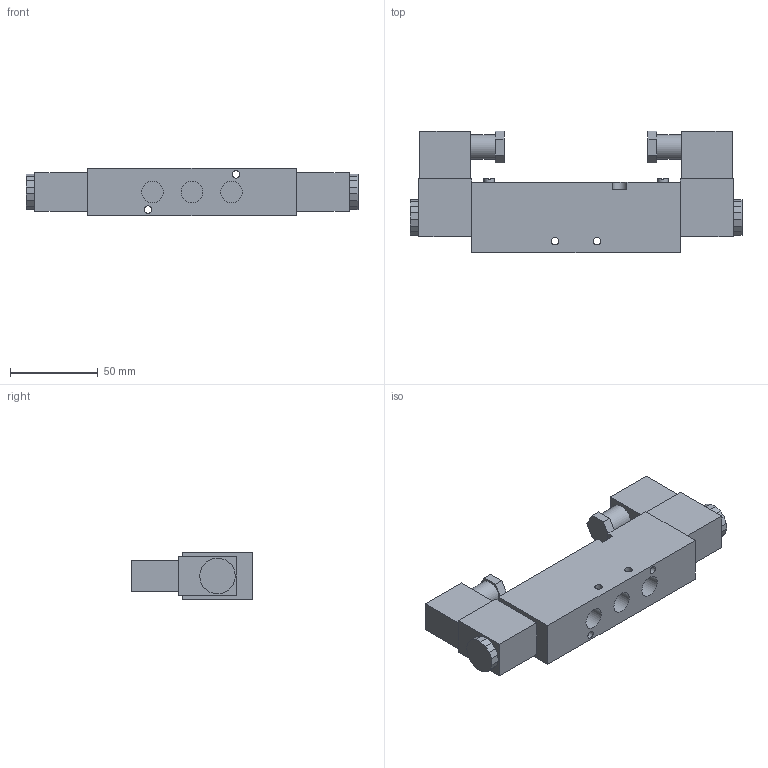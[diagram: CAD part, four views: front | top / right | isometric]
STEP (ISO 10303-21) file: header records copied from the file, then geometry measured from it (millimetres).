
FILE_DESCRIPTION(('STEP AP203'), '1');
FILE_NAME('4V320-08 AC220V 砅槻斁譇厴謥麧錒蠈錪 DN.RU', '2026-04-21T18:33:31', ('R2D2'), (''), 'C3D Converter', 'C3D Toolkit', '');
FILE_SCHEMA(('CONFIG_CONTROL_DESIGN'));
Length unit declared in the file: millimetre
Products named in the file (1): 4V320-08 AC220V
Bounding box: 188.8 x 69 x 27 mm (x, y, z)
Volume: 200388.9 mm3; surface area: 36672.3 mm2
Topology: 1 solids, 1 shells, 114 faces, 287 edges, 190 vertices
Faces by surface type: plane 99, cylinder 15
Full cylindrical faces by diameter (mm): 4.3 x4, 6 x2, 12.3 x5, 14 x2
Entity records: 3725 total; most frequent: CARTESIAN_POINT 579, ORIENTED_EDGE 548, DIRECTION 542, EDGE_CURVE 274, LINE 236, VECTOR 236, VERTEX_POINT 190, AXIS2_PLACEMENT_3D 153
